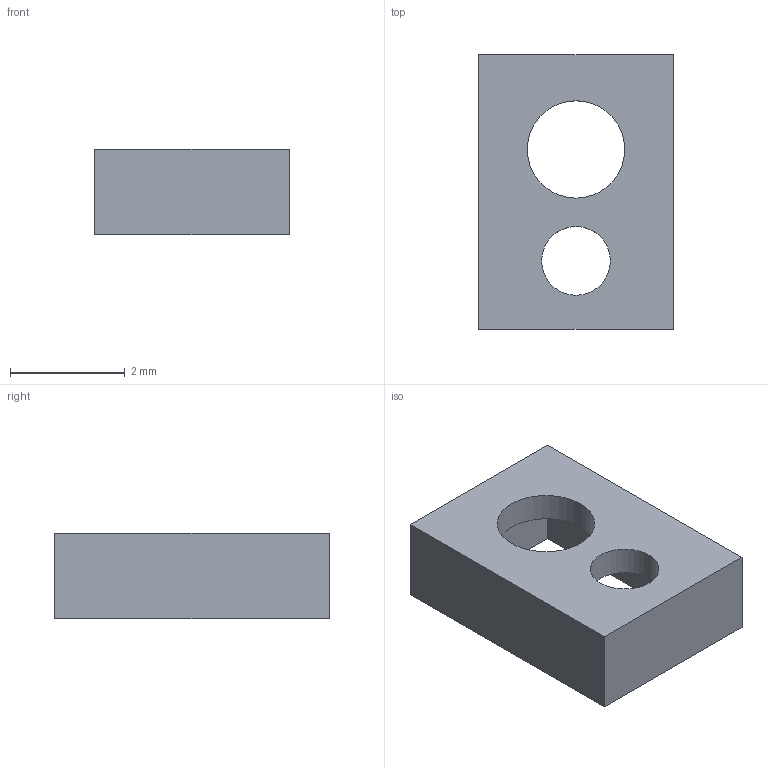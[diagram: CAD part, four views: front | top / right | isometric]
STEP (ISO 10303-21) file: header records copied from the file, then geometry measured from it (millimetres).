
FILE_DESCRIPTION (( 'STEP AP203' ), '1' );
FILE_NAME ('TMF8806_EVM_4.STEP', '2024-06-03T16:18:24', ( '' ), ( '' ), 'SwSTEP 2.0', 'SolidWorks 2022', '' );
FILE_SCHEMA (( 'CONFIG_CONTROL_DESIGN' ));
Length unit declared in the file: millimetre
Products named in the file (1): TMF8806_EVM_4
Bounding box: 3.4 x 4.8 x 1.5 mm (x, y, z)
Volume: 13.7 mm3; surface area: 67.4 mm2
Topology: 1 solids, 1 shells, 15 faces, 36 edges, 24 vertices
Faces by surface type: plane 11, cylinder 4
Entity records: 523 total; most frequent: DIRECTION 76, CARTESIAN_POINT 76, ORIENTED_EDGE 72, EDGE_CURVE 36, VECTOR 28, LINE 28, VERTEX_POINT 24, AXIS2_PLACEMENT_3D 24
